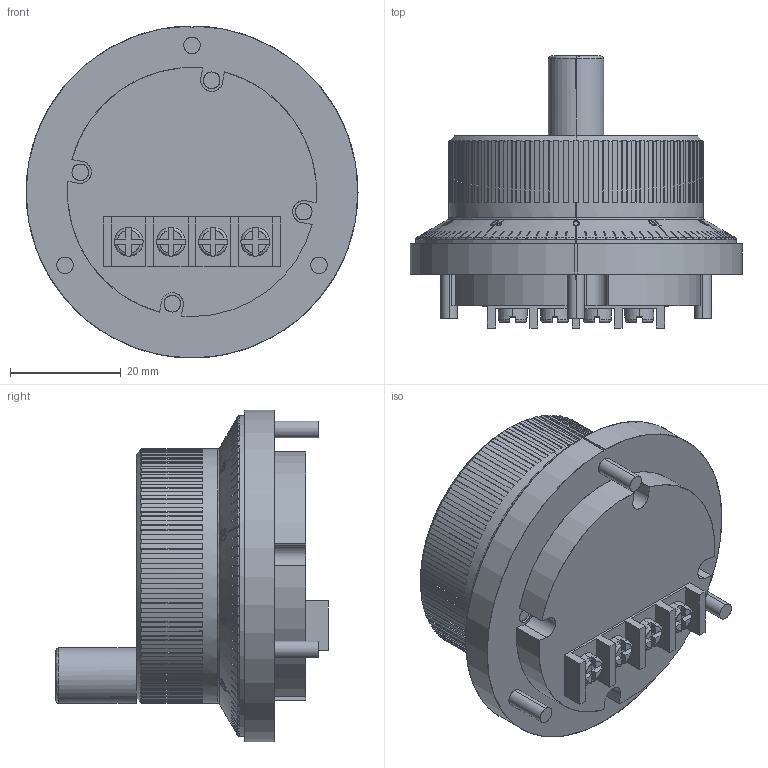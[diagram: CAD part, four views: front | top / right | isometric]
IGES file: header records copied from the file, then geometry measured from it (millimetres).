
Start section: SolidWorks IGES file using analytic representation for surfaces
Global section: file name: O:\08-Produkte_DatBlät&Beiblät&PrLi&Appl&Wettb\8-1 Megatron\GM-Design 3D-Modelle\Winkelsensoren\MHU60\MHU60.IGS; native system: SolidWorks 2012; preprocessor: SolidWorks 2012; author: AlessandroC; date: 120606.151011; units: millimetre
Bounding box: 60 x 49.2 x 60 mm (x, y, z)
Surface area: 13284.3 mm2 (no closed solid volume)
Topology: 0 solids, 0 shells, 1147 faces, 12920 edges, 12920 vertices
Faces by surface type: bspline 959, revolution 188
